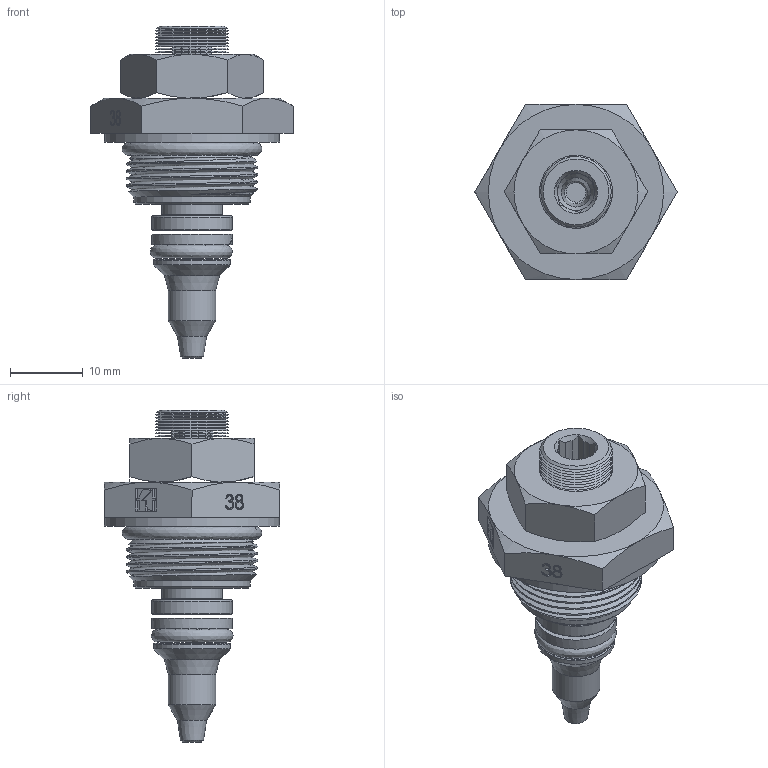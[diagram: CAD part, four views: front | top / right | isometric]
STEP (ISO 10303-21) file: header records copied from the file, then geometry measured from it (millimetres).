
FILE_DESCRIPTION (( 'STEP AP214' ), '1' );
FILE_NAME ('2243-2-38.STEP', '2023-03-08T15:35:42', ( '' ), ( '' ), 'SwSTEP 2.0', 'SolidWorks 2022', '' );
FILE_SCHEMA (( 'AUTOMOTIVE_DESIGN' ));
Length unit declared in the file: millimetre
Products named in the file (1): 2243-2-38
Bounding box: 27.71 x 24 x 45.5 mm (x, y, z)
Surface area: 4367.9 mm2 (no closed solid volume)
Topology: 0 solids, 17 shells, 234 faces, 666 edges, 443 vertices
Faces by surface type: plane 107, bspline 68, cone 38, cylinder 17, torus 4
Full cylindrical faces by diameter (mm): 5.1 x1, 6.5 x1, 8.3 x1, 9 x1, 10.5 x1, 11 x1, 15.5 x1, 16 x1, 24 x1
Entity records: 16051 total; most frequent: CARTESIAN_POINT 8219, ORIENTED_EDGE 1114, DIRECTION 846, EDGE_CURVE 611, VERTEX_POINT 429, LINE 310, VECTOR 310, EDGE_LOOP 289
